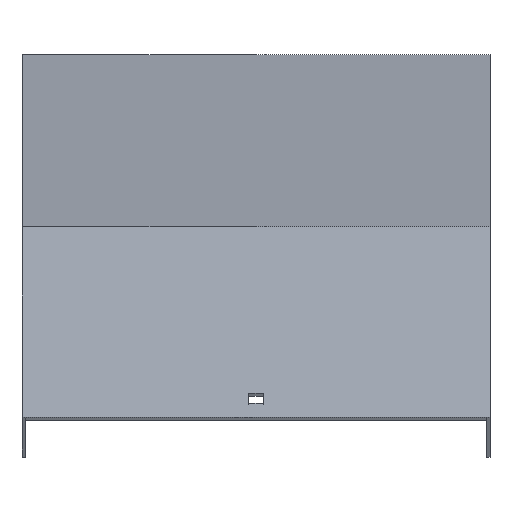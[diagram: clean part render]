
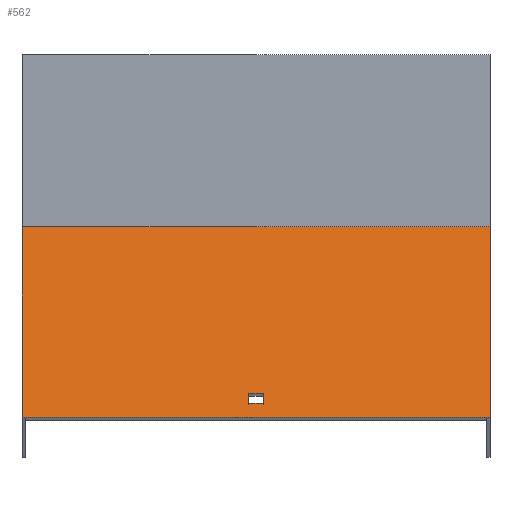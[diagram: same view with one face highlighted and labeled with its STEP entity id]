
A CAD part, top view. The second image highlights one B-rep face of the part: STEP entity #562.
In plain terms, the highlighted planar face has unit normal (0, 0.866, 0.5).
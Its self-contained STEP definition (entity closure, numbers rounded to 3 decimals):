
#12 = EDGE_CURVE ( 'NONE', #407, #556, #326, .T. ) ;
#42 = CARTESIAN_POINT ( 'NONE',  ( 101.5, -127.443, 571.264 ) ) ;
#48 = VERTEX_POINT ( 'NONE', #138 ) ;
#56 = ORIENTED_EDGE ( 'NONE', *, *, #536, .T. ) ;
#96 = DIRECTION ( 'NONE',  ( 0., 0.5, -0.866 ) ) ;
#116 = DIRECTION ( 'NONE',  ( 0., -0.5, 0.866 ) ) ;
#126 = CARTESIAN_POINT ( 'NONE',  ( 101.5, -137.943, 589.451 ) ) ;
#138 = CARTESIAN_POINT ( 'NONE',  ( -101.5, -55.126, 446.009 ) ) ;
#166 = PLANE ( 'NONE',  #638 ) ;
#167 = CARTESIAN_POINT ( 'NONE',  ( -3.25, -127.443, 571.264 ) ) ;
#169 = ORIENTED_EDGE ( 'NONE', *, *, #619, .F. ) ;
#171 = DIRECTION ( 'NONE',  ( 0., -0.5, 0.866 ) ) ;
#175 = VERTEX_POINT ( 'NONE', #738 ) ;
#177 = LINE ( 'NONE', #42, #405 ) ;
#184 = CARTESIAN_POINT ( 'NONE',  ( 3.25, -127.443, 571.264 ) ) ;
#224 = LINE ( 'NONE', #286, #745 ) ;
#234 = FACE_BOUND ( 'NONE', #800, .T. ) ;
#246 = VERTEX_POINT ( 'NONE', #184 ) ;
#251 = EDGE_CURVE ( 'NONE', #810, #175, #517, .T. ) ;
#255 = ORIENTED_EDGE ( 'NONE', *, *, #624, .T. ) ;
#260 = CARTESIAN_POINT ( 'NONE',  ( 101.5, -55.126, 446.009 ) ) ;
#286 = CARTESIAN_POINT ( 'NONE',  ( 101.5, -56.443, 448.289 ) ) ;
#294 = CARTESIAN_POINT ( 'NONE',  ( -101.5, -137.943, 589.451 ) ) ;
#326 = LINE ( 'NONE', #126, #516 ) ;
#327 = EDGE_LOOP ( 'NONE', ( #255, #364, #169, #780 ) ) ;
#333 = VECTOR ( 'NONE', #849, 1000. ) ;
#336 = DIRECTION ( 'NONE',  ( -1., 0., 0. ) ) ;
#351 = EDGE_CURVE ( 'NONE', #246, #810, #440, .T. ) ;
#359 = EDGE_CURVE ( 'NONE', #469, #48, #576, .T. ) ;
#361 = LINE ( 'NONE', #439, #835 ) ;
#364 = ORIENTED_EDGE ( 'NONE', *, *, #12, .F. ) ;
#371 = LINE ( 'NONE', #494, #529 ) ;
#405 = VECTOR ( 'NONE', #495, 1000. ) ;
#406 = DIRECTION ( 'NONE',  ( -1., 0., 0. ) ) ;
#407 = VERTEX_POINT ( 'NONE', #593 ) ;
#439 = CARTESIAN_POINT ( 'NONE',  ( -3.25, -56.443, 448.289 ) ) ;
#440 = LINE ( 'NONE', #705, #743 ) ;
#459 = VECTOR ( 'NONE', #336, 1000. ) ;
#466 = CARTESIAN_POINT ( 'NONE',  ( 101.5, -55.126, 446.009 ) ) ;
#469 = VERTEX_POINT ( 'NONE', #466 ) ;
#494 = CARTESIAN_POINT ( 'NONE',  ( -101.5, -56.443, 448.289 ) ) ;
#495 = DIRECTION ( 'NONE',  ( 1., 0., 0. ) ) ;
#516 = VECTOR ( 'NONE', #406, 1000. ) ;
#517 = LINE ( 'NONE', #520, #333 ) ;
#520 = CARTESIAN_POINT ( 'NONE',  ( 101.5, -131.943, 579.059 ) ) ;
#529 = VECTOR ( 'NONE', #171, 1000. ) ;
#536 = EDGE_CURVE ( 'NONE', #175, #788, #361, .T. ) ;
#556 = VERTEX_POINT ( 'NONE', #294 ) ;
#562 = ADVANCED_FACE ( 'NONE', ( #234, #678 ), #166, .F. ) ;
#563 = DIRECTION ( 'NONE',  ( 0., 0.5, -0.866 ) ) ;
#576 = LINE ( 'NONE', #260, #459 ) ;
#593 = CARTESIAN_POINT ( 'NONE',  ( 101.5, -137.943, 589.451 ) ) ;
#602 = ORIENTED_EDGE ( 'NONE', *, *, #251, .T. ) ;
#619 = EDGE_CURVE ( 'NONE', #469, #407, #224, .T. ) ;
#624 = EDGE_CURVE ( 'NONE', #48, #556, #371, .T. ) ;
#629 = DIRECTION ( 'NONE',  ( 0., -0.5, 0.866 ) ) ;
#638 = AXIS2_PLACEMENT_3D ( 'NONE', #833, #740, #96 ) ;
#678 = FACE_OUTER_BOUND ( 'NONE', #327, .T. ) ;
#705 = CARTESIAN_POINT ( 'NONE',  ( 3.25, -56.443, 448.289 ) ) ;
#738 = CARTESIAN_POINT ( 'NONE',  ( -3.25, -131.943, 579.059 ) ) ;
#740 = DIRECTION ( 'NONE',  ( 0., -0.866, -0.5 ) ) ;
#743 = VECTOR ( 'NONE', #116, 1000. ) ;
#745 = VECTOR ( 'NONE', #629, 1000. ) ;
#758 = CARTESIAN_POINT ( 'NONE',  ( 3.25, -131.943, 579.059 ) ) ;
#780 = ORIENTED_EDGE ( 'NONE', *, *, #359, .T. ) ;
#788 = VERTEX_POINT ( 'NONE', #167 ) ;
#800 = EDGE_LOOP ( 'NONE', ( #847, #829, #602, #56 ) ) ;
#810 = VERTEX_POINT ( 'NONE', #758 ) ;
#829 = ORIENTED_EDGE ( 'NONE', *, *, #351, .T. ) ;
#833 = CARTESIAN_POINT ( 'NONE',  ( 101.5, -56.443, 448.289 ) ) ;
#835 = VECTOR ( 'NONE', #563, 1000. ) ;
#847 = ORIENTED_EDGE ( 'NONE', *, *, #848, .T. ) ;
#848 = EDGE_CURVE ( 'NONE', #788, #246, #177, .T. ) ;
#849 = DIRECTION ( 'NONE',  ( -1., 0., 0. ) ) ;
